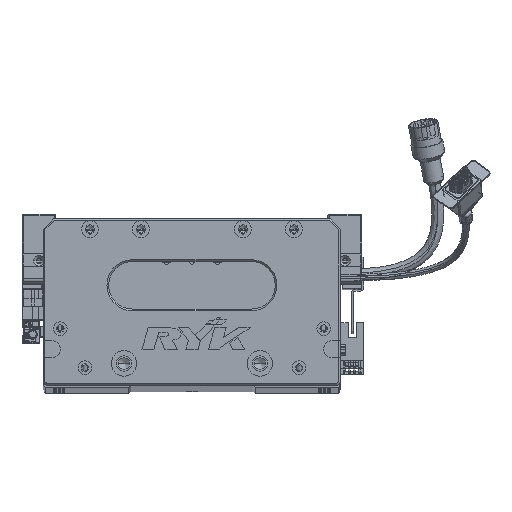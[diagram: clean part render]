
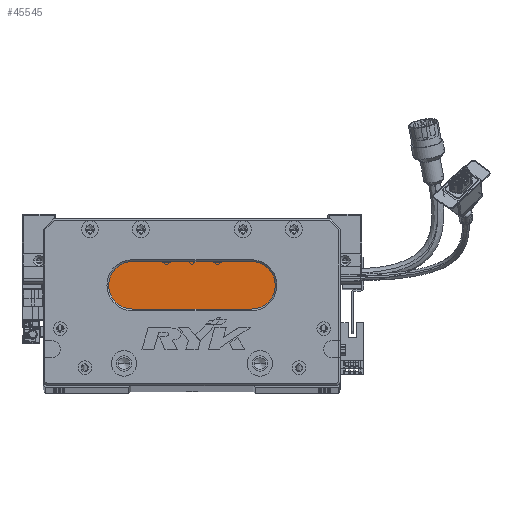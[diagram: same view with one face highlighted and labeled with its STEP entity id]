
A CAD part, top view. The second image highlights one B-rep face of the part: STEP entity #45545.
In plain terms, the highlighted planar face has unit normal (0, 0, 1) as drawn and (0, 0, -1) by its records, which use the part's own axes.
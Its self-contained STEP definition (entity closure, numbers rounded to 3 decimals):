
#3211 = CARTESIAN_POINT ( 'NONE',  ( 52.5, 73., 18. ) ) ;
#3474 = CARTESIAN_POINT ( 'NONE',  ( 52.5, 59., 18. ) ) ;
#7680 = ORIENTED_EDGE ( 'NONE', *, *, #99585, .T. ) ;
#15069 = VECTOR ( 'NONE', #16538, 1000. ) ;
#16538 = DIRECTION ( 'NONE',  ( 1., 0., 0. ) ) ;
#16779 = AXIS2_PLACEMENT_3D ( 'NONE', #92953, #102210, #48588 ) ;
#20546 = EDGE_LOOP ( 'NONE', ( #57520, #7680, #108165, #97439, #107055 ) ) ;
#20896 = CARTESIAN_POINT ( 'NONE',  ( 122.5, 45., 18. ) ) ;
#23142 = AXIS2_PLACEMENT_3D ( 'NONE', #3474, #94095, #85246 ) ;
#26600 = CARTESIAN_POINT ( 'NONE',  ( 122.5, 73., 18. ) ) ;
#29451 = CIRCLE ( 'NONE', #34250, 14. ) ;
#31983 = VERTEX_POINT ( 'NONE', #87011 ) ;
#32466 = EDGE_CURVE ( 'NONE', #97457, #89038, #54185, .T. ) ;
#34054 = DIRECTION ( 'NONE',  ( -1., 0., 0. ) ) ;
#34250 = AXIS2_PLACEMENT_3D ( 'NONE', #58066, #103591, #113667 ) ;
#40896 = LINE ( 'NONE', #26600, #15069 ) ;
#42330 = EDGE_CURVE ( 'NONE', #89038, #31983, #40896, .T. ) ;
#45545 = ADVANCED_FACE ( 'NONE', ( #51747 ), #105320, .T. ) ;
#46771 = VECTOR ( 'NONE', #75049, 1000. ) ;
#48588 = DIRECTION ( 'NONE',  ( -1., 0., 0. ) ) ;
#49376 = VERTEX_POINT ( 'NONE', #20896 ) ;
#51010 = LINE ( 'NONE', #55713, #46771 ) ;
#51747 = FACE_OUTER_BOUND ( 'NONE', #20546, .T. ) ;
#54185 = CIRCLE ( 'NONE', #16779, 14. ) ;
#55029 = CARTESIAN_POINT ( 'NONE',  ( 38.5, 59., 18. ) ) ;
#55713 = CARTESIAN_POINT ( 'NONE',  ( 122.5, 45., 18. ) ) ;
#57520 = ORIENTED_EDGE ( 'NONE', *, *, #99745, .T. ) ;
#58066 = CARTESIAN_POINT ( 'NONE',  ( 122.5, 59., 18. ) ) ;
#68673 = DIRECTION ( 'NONE',  ( 0., 0., -1. ) ) ;
#74994 = EDGE_CURVE ( 'NONE', #88657, #97457, #118725, .T. ) ;
#75049 = DIRECTION ( 'NONE',  ( -1., 0., 0. ) ) ;
#85246 = DIRECTION ( 'NONE',  ( -1., 0., 0. ) ) ;
#87011 = CARTESIAN_POINT ( 'NONE',  ( 122.5, 73., 18. ) ) ;
#88657 = VERTEX_POINT ( 'NONE', #88693 ) ;
#88693 = CARTESIAN_POINT ( 'NONE',  ( 52.5, 45., 18. ) ) ;
#89038 = VERTEX_POINT ( 'NONE', #3211 ) ;
#92953 = CARTESIAN_POINT ( 'NONE',  ( 52.5, 59., 18. ) ) ;
#94095 = DIRECTION ( 'NONE',  ( 0., 0., -1. ) ) ;
#97439 = ORIENTED_EDGE ( 'NONE', *, *, #32466, .T. ) ;
#97457 = VERTEX_POINT ( 'NONE', #55029 ) ;
#99585 = EDGE_CURVE ( 'NONE', #49376, #88657, #51010, .T. ) ;
#99745 = EDGE_CURVE ( 'NONE', #31983, #49376, #29451, .T. ) ;
#102210 = DIRECTION ( 'NONE',  ( 0., 0., -1. ) ) ;
#103591 = DIRECTION ( 'NONE',  ( 0., 0., -1. ) ) ;
#104924 = CARTESIAN_POINT ( 'NONE',  ( 122.5, 59., 18. ) ) ;
#105320 = PLANE ( 'NONE',  #110707 ) ;
#107055 = ORIENTED_EDGE ( 'NONE', *, *, #42330, .T. ) ;
#108165 = ORIENTED_EDGE ( 'NONE', *, *, #74994, .T. ) ;
#110707 = AXIS2_PLACEMENT_3D ( 'NONE', #104924, #68673, #34054 ) ;
#113667 = DIRECTION ( 'NONE',  ( -1., 0., 0. ) ) ;
#118725 = CIRCLE ( 'NONE', #23142, 14. ) ;
